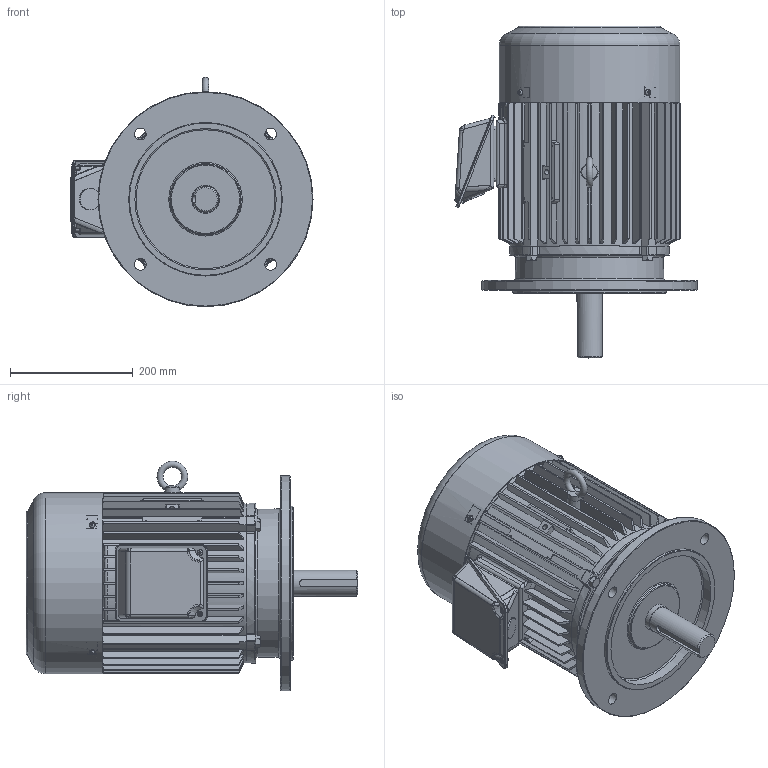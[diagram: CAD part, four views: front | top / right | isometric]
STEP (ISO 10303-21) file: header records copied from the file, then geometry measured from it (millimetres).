
FILE_DESCRIPTION(/* description */ ('Unknown'),/* implementation_level */ '2;1');
FILE_NAME(/* name */ '1-SMA-33834_외형도(248DIA)',/* time_stamp */ '2026-07-24T08:54:53+09:00',/* author */ ('Unknown'),/* organization */ ('Unknown'),/* preprocessor_version */ 'ST-DEVELOPER v16',/* originating_system */ 'DEX',/* authorisation */ $);
FILE_SCHEMA (('AUTOMOTIVE_DESIGN {1 0 10303 214 3 1 1}'));
Products named in the file (19): 1-SMA-33834_寇屈档(248DIx.絙; 2-SMA-30915_FRAME(248DIA); 3-SMA-30916_擅粽塭鰍(248D; 4-SMA-30910_菴粽塭鰍(248D; 5-SMA-30917_SHAFT(248DIA); 6-SMA-31245_FAN(248, 260DIA); 7-SMA-30914_FAN COVER(248DIA); I獐お M12x1.75x22; 菅斬 褊濠 M6x1x; 蹴辨 S3; 幫陝獐お M10x1.5x; 5.5~15kW(7.5~20HP)_ﾅﾍｹﾌｳﾎ ｹﾚｽｺ(205~2600ﾑｱ ; 8-SMA-33050_T-BOX(鼻)(205~260DIA); 9-SMA-33051_T-BOX(ÇÏ)(205~260DIA)ê_ÿ; 褊濠 菅斬 該葬 獐お M5x; T-BOX 歜衛 馨檜綰斜楠萄(205~; T-BOX ｾﾐﾆﾇ(205~260DIA) V; 6309ZZ; 6308ZZ
Assembly tree (29 placements, depth 3):
  1-SMA-33834_寇屈档(248DIx.絙
    2-SMA-30915_FRAME(248DIA)
    3-SMA-30916_擅粽塭鰍(248D
    4-SMA-30910_菴粽塭鰍(248D
    5-SMA-30917_SHAFT(248DIA)
    6-SMA-31245_FAN(248, 260DIA)
    7-SMA-30914_FAN COVER(248DIA)
    I獐お M12x1.75x22
    菅斬 褊濠 M6x1x  x4
    蹴辨 S3
    幫陝獐お M10x1.5x  x8
    5.5~15kW(7.5~20HP)_ﾅﾍｹﾌｳﾎ ｹﾚｽｺ(205~2600ﾑｱ 
      8-SMA-33050_T-BOX(鼻)(205~260DIA)
      9-SMA-33051_T-BOX(ÇÏ)(205~260DIA)ê_ÿ
      褊濠 菅斬 該葬 獐お M5x  x2
      T-BOX 歜衛 馨檜綰斜楠萄(205~
      T-BOX ｾﾐﾆﾇ(205~260DIA) V
    6309ZZ
    6308ZZ
Bounding box: 393.99 x 539.99 x 373.5 mm (x, y, z)
Volume: 5934892 mm3; surface area: 2032700.1 mm2
Topology: 50 solids, 50 shells, 2097 faces, 5315 edges, 3385 vertices
Faces by surface type: plane 740, cylinder 649, cone 399, torus 184, bspline 103, sphere 22
Full cylindrical faces by diameter (mm): 2.2 x4, 2.5 x2, 4.134 x2, 4.917 x2, 5 x2, 6 x10, 6.6 x4, 7 x2, 8 x1, 8.376 x16, 9 x2, 10 x16, 10.106 x2, 12 x10, 19 x4, 25 x1, 34.9 x1, 35 x3, 39.8 x1, 40 x4, 40.8 x1, 42 x1, 44.8 x1, 45 x2, 45.7 x1, 46.1 x1, 49 x1, 54.286 x2, 54.686 x2, 57 x2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
Entity records: 79332 total; most frequent: CARTESIAN_POINT 31074, ORIENTED_EDGE 9036, DIRECTION 8905, EDGE_CURVE 4518, AXIS2_PLACEMENT_3D 3641, VERTEX_POINT 3014, FACE_BOUND 2328, EDGE_LOOP 2299
